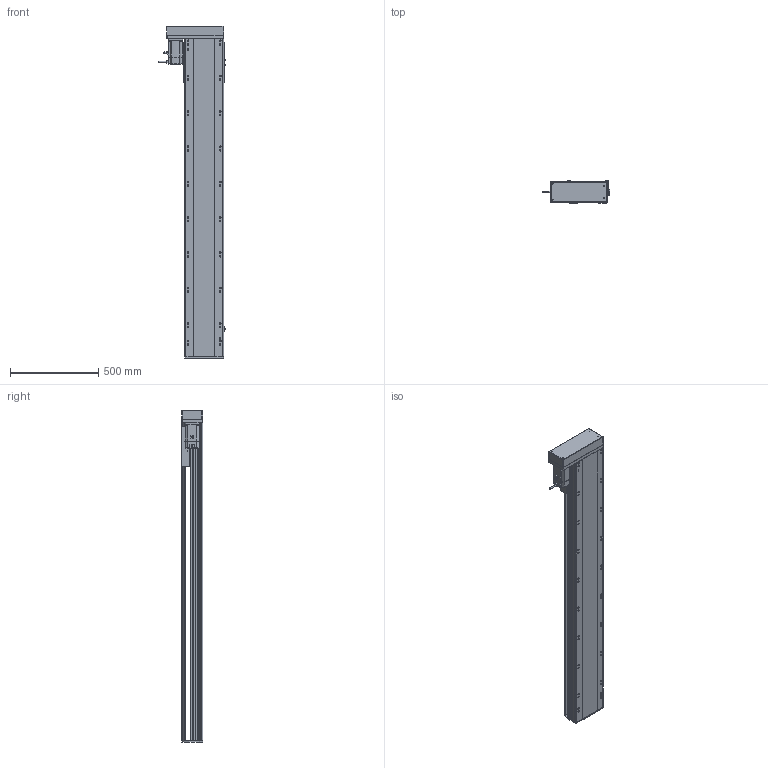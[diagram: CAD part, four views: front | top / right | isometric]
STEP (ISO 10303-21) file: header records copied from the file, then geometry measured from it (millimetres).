
FILE_DESCRIPTION (( 'STEP AP214' ), '1' );
FILE_NAME ('RTH22-XX-1500-R-M75-C4.STEP', '2025-10-25T03:15:59', ( 'Microsoft' ), ( 'Microsoft' ), 'SwSTEP 2.0', 'SolidWorks 2018', '' );
FILE_SCHEMA (( 'AUTOMOTIVE_DESIGN' ));
Length unit declared in the file: millimetre
Products named in the file (10): N_RTH22-L-011菁釱^RTH22-XX-XX-R-M75-C4; N_RTH22-R-008-P75萇儂啣^RTH22-XX-XX-R-M75-C4; N_RTH22-GY-001耜裔^RTH22-XX-XX-R-M75-C4; N_OMRON EE-SX672 传感器^RTH22-XX-XX-R-M75-C4; N_RTH22-L-007奻裔^RTH22-XX-XX-R-M75-C4; N_RTH22-L-004-SFS25賑釱^RTH22-XX-XX-R-M75-C4; N_RTH22-GY-013外置感应片^RTH22-XX-XX-R-M75-C4; RTH22-XX-1500-R-M75-C4; N_750W萇儂^RTH22-XX-XX-R-M75-C4; N_RTH22-L-018裔赽^RTH22-XX-XX-R-M75-C4
Assembly tree (11 placements, depth 2):
  RTH22-XX-1500-R-M75-C4
    N_RTH22-L-011菁釱^RTH22-XX-XX-R-M75-C4
    N_RTH22-GY-001耜裔^RTH22-XX-XX-R-M75-C4
    N_750W萇儂^RTH22-XX-XX-R-M75-C4
    N_RTH22-R-008-P75萇儂啣^RTH22-XX-XX-R-M75-C4
    N_RTH22-L-007奻裔^RTH22-XX-XX-R-M75-C4
    N_OMRON EE-SX672 传感器^RTH22-XX-XX-R-M75-C4  x3
    N_RTH22-GY-013外置感应片^RTH22-XX-XX-R-M75-C4
    N_RTH22-L-004-SFS25賑釱^RTH22-XX-XX-R-M75-C4
    N_RTH22-L-018裔赽^RTH22-XX-XX-R-M75-C4
Bounding box: 384.7 x 122 x 1879.7 mm (x, y, z)
Volume: 24762994.9 mm3; surface area: 2694229.1 mm2
Topology: 11 solids, 11 shells, 1646 faces, 4497 edges, 2893 vertices
Faces by surface type: plane 799, cylinder 498, bspline 279, cone 70
Entity records: 41941 total; most frequent: CARTESIAN_POINT 12646, ORIENTED_EDGE 5946, DIRECTION 5659, EDGE_CURVE 2973, VERTEX_POINT 1929, AXIS2_PLACEMENT_3D 1926, VECTOR 1807, LINE 1807
